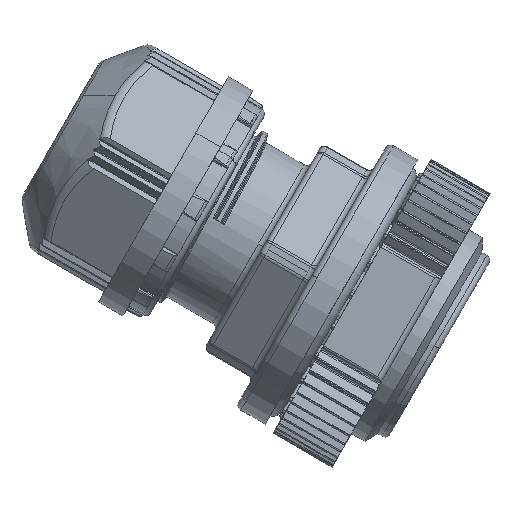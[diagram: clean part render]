
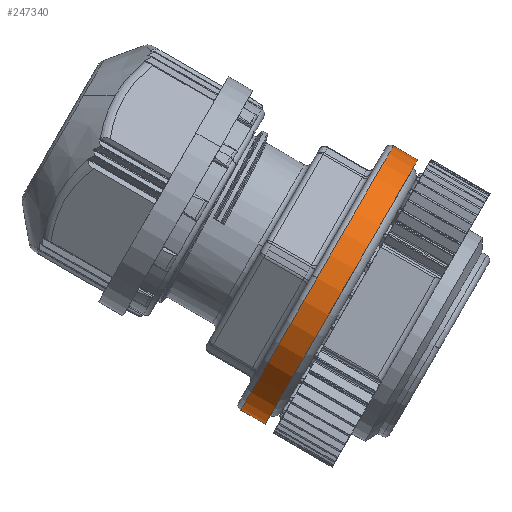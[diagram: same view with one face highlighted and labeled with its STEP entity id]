
A CAD part, left-side view. The second image highlights one B-rep face of the part: STEP entity #247340.
In plain terms, the highlighted cylindrical face has radius 13.5 mm (diameter 27 mm), a partial arc.
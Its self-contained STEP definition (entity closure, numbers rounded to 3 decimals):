
#184850=CARTESIAN_POINT('',(69.401,151.189,
0.));
#184860=DIRECTION('',(1.,0.,0.));
#184870=DIRECTION('',(0.,-1.,0.));
#184880=AXIS2_PLACEMENT_3D('',#184850,#184860,#184870);
#184890=CIRCLE('',#184880,13.5);
#184920=CARTESIAN_POINT('',(69.401,151.189,
-13.5));
#184930=VERTEX_POINT('',#184920);
#184960=CARTESIAN_POINT('',(69.401,151.189,
13.5));
#184970=VERTEX_POINT('',#184960);
#184980=EDGE_CURVE('',#184930,#184970,#184890,.T.);
#185050=CARTESIAN_POINT('',(70.651,151.189,
0.));
#185060=DIRECTION('',(-1.,0.,0.));
#185070=DIRECTION('',(0.,0.,1.));
#185080=AXIS2_PLACEMENT_3D('',#185050,#185060,#185070);
#185090=CYLINDRICAL_SURFACE('',#185080,13.5);
#185100=CARTESIAN_POINT('',(70.651,151.189,
13.5));
#185110=DIRECTION('',(-1.,0.,0.));
#185120=VECTOR('',#185110,1.);
#185130=LINE('',#185100,#185120);
#185140=CARTESIAN_POINT('',(71.901,151.189,
13.5));
#185150=VERTEX_POINT('',#185140);
#185160=EDGE_CURVE('',#185150,#184970,#185130,.T.);
#185180=CARTESIAN_POINT('',(71.901,151.189,
0.));
#185190=DIRECTION('',(1.,0.,0.));
#185200=DIRECTION('',(0.,-1.,0.));
#185210=AXIS2_PLACEMENT_3D('',#185180,#185190,#185200);
#185220=CIRCLE('',#185210,13.5);
#185270=CARTESIAN_POINT('',(71.901,151.189,
-13.5));
#185280=VERTEX_POINT('',#185270);
#185310=CARTESIAN_POINT('',(70.651,151.189,
-13.5));
#185320=DIRECTION('',(-1.,0.,0.));
#185330=VECTOR('',#185320,1.);
#185340=LINE('',#185310,#185330);
#185350=EDGE_CURVE('',#185280,#184930,#185340,.T.);
#185470=CARTESIAN_POINT('',(71.901,164.689,
0.));
#185480=VERTEX_POINT('',#185470);
#185490=EDGE_CURVE('',#185480,#185150,#185220,.T.);
#247260=ORIENTED_EDGE('',*,*,#184980,.T.);
#247270=ORIENTED_EDGE('',*,*,#185350,.T.);
#247280=EDGE_CURVE('',#185280,#185480,#185220,.T.);
#247290=ORIENTED_EDGE('',*,*,#247280,.F.);
#247300=ORIENTED_EDGE('',*,*,#185490,.F.);
#247310=ORIENTED_EDGE('',*,*,#185160,.F.);
#247320=EDGE_LOOP('',(#247310,#247300,#247290,#247270,#247260));
#247330=FACE_OUTER_BOUND('',#247320,.T.);
#247340=ADVANCED_FACE('',(#247330),#185090,.T.);
